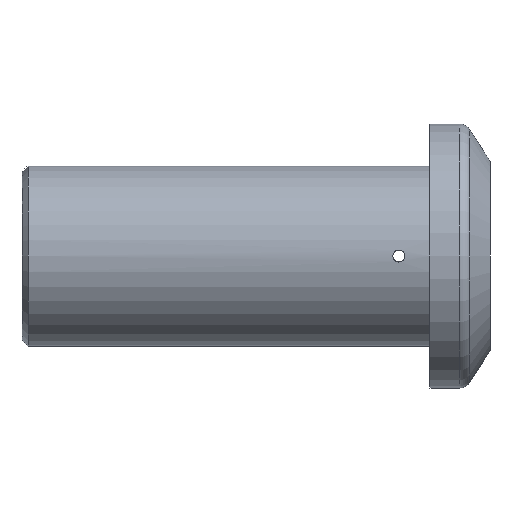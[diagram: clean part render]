
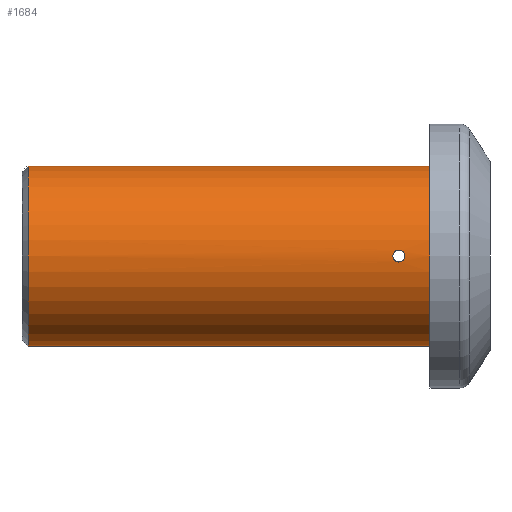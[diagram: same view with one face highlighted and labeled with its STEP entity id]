
A CAD part, front view. The second image highlights one B-rep face of the part: STEP entity #1684.
In plain terms, the highlighted cylindrical face has radius 7.5 mm (diameter 15 mm), a partial arc.
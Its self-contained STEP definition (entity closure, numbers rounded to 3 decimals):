
#61 = DIRECTION ( 'NONE',  ( 0., 0., 1. ) ) ;
#117 = CARTESIAN_POINT ( 'NONE',  ( 31.965, -7.496, -0.262 ) ) ;
#129 = CARTESIAN_POINT ( 'NONE',  ( 32.858, -7.496, -0.26 ) ) ;
#135 = ORIENTED_EDGE ( 'NONE', *, *, #622, .T. ) ;
#143 = CARTESIAN_POINT ( 'NONE',  ( 32.411, -7.483, -0.5 ) ) ;
#168 = EDGE_LOOP ( 'NONE', ( #402, #917, #135, #890 ) ) ;
#209 = CYLINDRICAL_SURFACE ( 'NONE', #1618, 7.5 ) ;
#257 = VECTOR ( 'NONE', #1655, 1000. ) ;
#258 = VERTEX_POINT ( 'NONE', #1244 ) ;
#268 = CARTESIAN_POINT ( 'NONE',  ( 32.911, -7.5, 0.131 ) ) ;
#345 = CARTESIAN_POINT ( 'NONE',  ( 35., 0., 7.5 ) ) ;
#390 = CARTESIAN_POINT ( 'NONE',  ( 31.965, -7.496, 0.261 ) ) ;
#402 = ORIENTED_EDGE ( 'NONE', *, *, #1526, .F. ) ;
#408 = CARTESIAN_POINT ( 'NONE',  ( 32.543, -7.483, 0.5 ) ) ;
#415 = VERTEX_POINT ( 'NONE', #1661 ) ;
#432 = CARTESIAN_POINT ( 'NONE',  ( 32.671, -7.487, -0.447 ) ) ;
#483 = DIRECTION ( 'NONE',  ( -1., 0., 0. ) ) ;
#509 = EDGE_CURVE ( 'NONE', #1818, #536, #918, .T. ) ;
#520 = CARTESIAN_POINT ( 'NONE',  ( 35., 0., 0. ) ) ;
#521 = CARTESIAN_POINT ( 'NONE',  ( 35., 0., -7.5 ) ) ;
#536 = VERTEX_POINT ( 'NONE', #345 ) ;
#550 = CARTESIAN_POINT ( 'NONE',  ( 32.411, -7.483, 0.5 ) ) ;
#564 = CARTESIAN_POINT ( 'NONE',  ( 32.28, -7.483, -0.5 ) ) ;
#565 = CARTESIAN_POINT ( 'NONE',  ( 0., 0., 7.5 ) ) ;
#573 = LINE ( 'NONE', #1199, #257 ) ;
#595 = EDGE_CURVE ( 'NONE', #415, #258, #1117, .T. ) ;
#622 = EDGE_CURVE ( 'NONE', #536, #415, #1146, .T. ) ;
#660 = EDGE_CURVE ( 'NONE', #812, #1889, #810, .T. ) ;
#690 = CARTESIAN_POINT ( 'NONE',  ( 32.411, -7.483, -0.5 ) ) ;
#782 = FACE_BOUND ( 'NONE', #948, .T. ) ;
#791 = VECTOR ( 'NONE', #1595, 1000. ) ;
#810 = B_SPLINE_CURVE_WITH_KNOTS ( 'NONE', 3,
 ( #550, #408, #1018, #1624, #268, #1476, #129, #432, #926, #143 ),
 .UNSPECIFIED., .F., .F.,
 ( 4, 2, 2, 2, 4 ),
 ( 0., 0., 0.001, 0.001, 0.002 ),
 .UNSPECIFIED. ) ;
#812 = VERTEX_POINT ( 'NONE', #935 ) ;
#838 = CARTESIAN_POINT ( 'NONE',  ( 31.911, -7.5, 0.132 ) ) ;
#890 = ORIENTED_EDGE ( 'NONE', *, *, #595, .T. ) ;
#917 = ORIENTED_EDGE ( 'NONE', *, *, #509, .T. ) ;
#918 = CIRCLE ( 'NONE', #1895, 7.5 ) ;
#926 = CARTESIAN_POINT ( 'NONE',  ( 32.541, -7.483, -0.5 ) ) ;
#935 = CARTESIAN_POINT ( 'NONE',  ( 32.411, -7.483, 0.5 ) ) ;
#940 = CARTESIAN_POINT ( 'NONE',  ( 0., 0., 0. ) ) ;
#948 = EDGE_LOOP ( 'NONE', ( #953, #1623 ) ) ;
#953 = ORIENTED_EDGE ( 'NONE', *, *, #660, .T. ) ;
#960 = FACE_OUTER_BOUND ( 'NONE', #168, .T. ) ;
#1018 = CARTESIAN_POINT ( 'NONE',  ( 32.672, -7.487, 0.446 ) ) ;
#1055 = EDGE_CURVE ( 'NONE', #1889, #812, #1507, .T. ) ;
#1117 = CIRCLE ( 'NONE', #1901, 7.5 ) ;
#1146 = LINE ( 'NONE', #565, #791 ) ;
#1159 = DIRECTION ( 'NONE',  ( 1., 0., 0. ) ) ;
#1194 = CARTESIAN_POINT ( 'NONE',  ( 32.411, -7.483, -0.5 ) ) ;
#1199 = CARTESIAN_POINT ( 'NONE',  ( 0., 0., -7.5 ) ) ;
#1244 = CARTESIAN_POINT ( 'NONE',  ( 1.5, 0., -7.5 ) ) ;
#1253 = DIRECTION ( 'NONE',  ( 0., 0., 1. ) ) ;
#1277 = CARTESIAN_POINT ( 'NONE',  ( 31.911, -7.5, -0.132 ) ) ;
#1295 = DIRECTION ( 'NONE',  ( 0., 0., 1. ) ) ;
#1334 = CARTESIAN_POINT ( 'NONE',  ( 32.279, -7.483, 0.5 ) ) ;
#1475 = CARTESIAN_POINT ( 'NONE',  ( 32.15, -7.487, -0.446 ) ) ;
#1476 = CARTESIAN_POINT ( 'NONE',  ( 32.911, -7.5, -0.13 ) ) ;
#1507 = B_SPLINE_CURVE_WITH_KNOTS ( 'NONE', 3,
 ( #690, #564, #1475, #117, #1277, #838, #390, #1892, #1334, #1513 ),
 .UNSPECIFIED., .F., .F.,
 ( 4, 2, 2, 2, 4 ),
 ( 0.002, 0.002, 0.002, 0.003, 0.003 ),
 .UNSPECIFIED. ) ;
#1513 = CARTESIAN_POINT ( 'NONE',  ( 32.411, -7.483, 0.5 ) ) ;
#1526 = EDGE_CURVE ( 'NONE', #1818, #258, #573, .T. ) ;
#1576 = DIRECTION ( 'NONE',  ( -1., 0., 0. ) ) ;
#1595 = DIRECTION ( 'NONE',  ( -1., 0., 0. ) ) ;
#1618 = AXIS2_PLACEMENT_3D ( 'NONE', #940, #483, #61 ) ;
#1623 = ORIENTED_EDGE ( 'NONE', *, *, #1055, .T. ) ;
#1624 = CARTESIAN_POINT ( 'NONE',  ( 32.857, -7.496, 0.261 ) ) ;
#1655 = DIRECTION ( 'NONE',  ( -1., 0., 0. ) ) ;
#1661 = CARTESIAN_POINT ( 'NONE',  ( 1.5, 0., 7.5 ) ) ;
#1684 = ADVANCED_FACE ( 'NONE', ( #960, #782 ), #209, .T. ) ;
#1769 = CARTESIAN_POINT ( 'NONE',  ( 1.5, 0., 0. ) ) ;
#1818 = VERTEX_POINT ( 'NONE', #521 ) ;
#1889 = VERTEX_POINT ( 'NONE', #1194 ) ;
#1892 = CARTESIAN_POINT ( 'NONE',  ( 32.149, -7.487, 0.446 ) ) ;
#1895 = AXIS2_PLACEMENT_3D ( 'NONE', #520, #1576, #1253 ) ;
#1901 = AXIS2_PLACEMENT_3D ( 'NONE', #1769, #1159, #1295 ) ;
